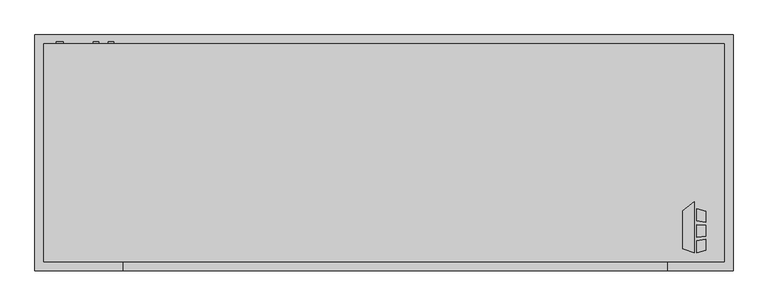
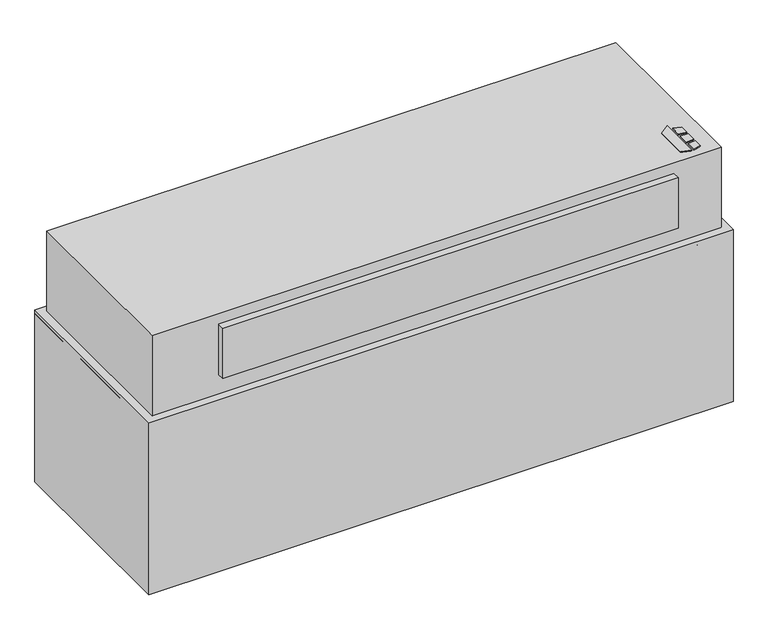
"""IFC4 building model written with IfcOpenShell, lengths in millimetres: proxy geometry, Horizontal_Telescoping_Fan_Coil_Unit_-_CBY_-_IEC_-_2-Pipe_Cool-EHeat_LH_2022 : Size 12 - 277v/60Hz/1Ph - 4 Row 10.0kW."""

from ifc_helpers import new_model, si_unit, point, frame, frame_2d, origin, origin_with_axes, place, context, project, spatial, polyline, circle_curve, trimmed, segment, composite_curve, outline, extrude, source, transform, mapped, element, save


def mechanical_equipment_dec472a1(model_context):
    return source(origin(), model_context, "Body", "SweptSolid", [
        extrude(outline(polyline([(988.7019761, -401.0078476), (1021.2602728, -375.5705184), (1021.2602728, -517.525), (988.7019761, -507.3054201), (988.7019761, -401.0078476)])), origin_with_axes(), (0.0, 0.0, 1.0), 3.175),
        extrude(outline(polyline([(1028.0186058, -428.879852), (1028.0186058, -394.3999379), (1054.1, -402.5865115), (1054.1, -432.0822446), (1028.0186058, -428.879852)])), origin_with_axes(), (0.0, 0.0, 1.0), 3.175),
        extrude(outline(polyline([(1054.1, -510.5365115), (1028.0186058, -517.525), (1028.0186058, -484.3036996), (1054.1, -480.7618564), (1054.1, -510.5365115)])), origin_with_axes(), (0.0, 0.0, 1.0), 3.175),
        extrude(outline(polyline([(1054.1, -441.1638277), (1054.1, -472.413983), (1028.0186058, -475.155248), (1028.0186058, -439.2975378), (1054.1, -441.1638277)])), origin_with_axes(), (0.0, 0.0, 1.0), 3.175),
        extrude(outline(composite_curve([segment(trimmed(circle_curve(frame_2d((-55.9967777, -612.775)), 7.9375), [point((-55.9967777, -604.8375))], [point((-55.9967777, -620.7125))], False, "CARTESIAN"), True, "CONTINUOUS"), segment(trimmed(circle_curve(frame_2d((-55.9967777, -612.775)), 7.9375), [point((-55.9967777, -620.7125))], [point((-55.9967777, -604.8375))], False, "CARTESIAN"), True, "CONTINUOUS")], self_intersect=False)), frame((0.0, 66.675, 0.0), z_axis=(0.0, 1.0, 0.0), x_axis=(0.0, 0.0, 1.0)), (0.0, 0.0, 1.0), 6.35),
        extrude(outline(composite_curve([segment(trimmed(circle_curve(frame_2d((-122.5981268, -654.05)), 7.9375), [point((-122.5981268, -646.1125))], [point((-122.5981268, -661.9875))], False, "CARTESIAN"), True, "CONTINUOUS"), segment(trimmed(circle_curve(frame_2d((-122.5981268, -654.05)), 7.9375), [point((-122.5981268, -661.9875))], [point((-122.5981268, -646.1125))], False, "CARTESIAN"), True, "CONTINUOUS")], self_intersect=False)), frame((0.0, 66.675, 0.0), z_axis=(0.0, 1.0, 0.0), x_axis=(0.0, 0.0, 1.0)), (0.0, 0.0, 1.0), 6.35),
        extrude(outline(composite_curve([segment(trimmed(circle_curve(frame_2d((-247.6037358, -755.65)), 9.525), [point((-247.6037358, -746.125))], [point((-247.6037358, -765.175))], False, "CARTESIAN"), True, "CONTINUOUS"), segment(trimmed(circle_curve(frame_2d((-247.6037358, -755.65)), 9.525), [point((-247.6037358, -765.175))], [point((-247.6037358, -746.125))], False, "CARTESIAN"), True, "CONTINUOUS")], self_intersect=False)), frame((0.0, 66.675, 0.0), z_axis=(0.0, 1.0, 0.0), x_axis=(0.0, 0.0, 1.0)), (0.0, 0.0, 1.0), 6.35),
        extrude(outline(polyline([(1130.3, 92.075), (1130.3, -568.325), (-825.5, -568.325), (-825.5, 92.075), (1130.3, 92.075)])), frame((0.0, 0.0, -895.35), z_axis=(0.0, 0.0, 1.0), x_axis=(1.0, 0.0, 0.0)), (0.0, 0.0, 1.0), 609.6),
        extrude(outline(polyline([(1130.3, 92.075), (1130.3, -568.325), (-825.5, -568.325), (-825.5, 92.075), (1130.3, 92.075)])), frame((0.0, 0.0, -311.15), z_axis=(0.0, 0.0, 1.0), x_axis=(1.0, 0.0, 0.0)), (0.0, 0.0, 1.0), 12.7),
        extrude(outline(polyline([(1130.3, 92.075), (1130.3, -568.325), (-825.5, -568.325), (-825.5, 92.075), (1130.3, 92.075)])), frame((0.0, 0.0, -292.1), z_axis=(0.0, 0.0, 1.0), x_axis=(1.0, 0.0, 0.0)), (0.0, 0.0, 1.0), 6.35),
        extrude(outline(polyline([(1104.9, 66.675), (1104.9, -542.925), (-800.1, -542.925), (-800.1, 66.675), (1104.9, 66.675)])), frame((0.0, 0.0, -298.45), z_axis=(0.0, 0.0, 1.0), x_axis=(1.0, 0.0, 0.0)), (0.0, 0.0, 1.0), 6.35),
        extrude(outline(polyline([(946.15, -568.325), (-577.85, -568.325), (-577.85, -542.925), (946.15, -542.925), (946.15, -568.325)])), frame((0.0, 0.0, -215.9), z_axis=(0.0, 0.0, 1.0), x_axis=(1.0, 0.0, 0.0)), (0.0, 0.0, 1.0), 177.8),
        extrude(outline(polyline([(-800.1, 66.675), (1104.9, 66.675), (1104.9, -542.925), (-800.1, -542.925), (-800.1, 66.675)])), frame((0.0, 0.0, -285.75), z_axis=(0.0, 0.0, 1.0), x_axis=(1.0, 0.0, 0.0)), (0.0, 0.0, 1.0), 285.75),
        extrude(outline(polyline([(939.8, -9.525), (939.8, -263.525), (-635.0, -263.525), (-635.0, -9.525), (939.8, -9.525)])), frame((0.0, 0.0, -317.5), z_axis=(0.0, 0.0, 1.0), x_axis=(1.0, 0.0, 0.0)), (0.0, 0.0, 1.0), 6.35),
    ])


if __name__ == "__main__":
    model = new_model("IFC4")
    model_context = context("Model", 3, world=origin())
    ifc_project = project(units=[si_unit("LENGTHUNIT", "METRE", prefix="MILLI")], contexts=[model_context])
    site = spatial("IfcSite", under=ifc_project)
    building = spatial("IfcBuilding", under=site)
    placement = place(None, origin())
    mechanical_equipment_shape = mechanical_equipment_dec472a1(model_context)
    element("IfcBuildingElementProxy", 1, Name="Horizontal_Telescoping_Fan_Coil_Unit_-_CBY_-_IEC_-_2-Pipe_Cool-EHeat_LH_2022 : Size 12 - 277v/60Hz/1Ph - 4 Row 10.0kW", ObjectType="Horizontal_Telescoping_Fan_Coil_Unit_-_CBY_-_IEC_-_2-Pipe_Cool-EHeat_LH_2022 : Size 12 - 277v/60Hz/1Ph - 4 Row 10.0kW", at=placement, inside=building, context=model_context, shape_type="MappedRepresentation", body=[
        mapped(mechanical_equipment_shape, transform((0.0, 0.0, 0.0), x_axis=(1.0, 0.0, 0.0), y_axis=(0.0, 1.0, 0.0), z_axis=(0.0, 0.0, 1.0))),
    ])
    save(model, "model.ifc")
